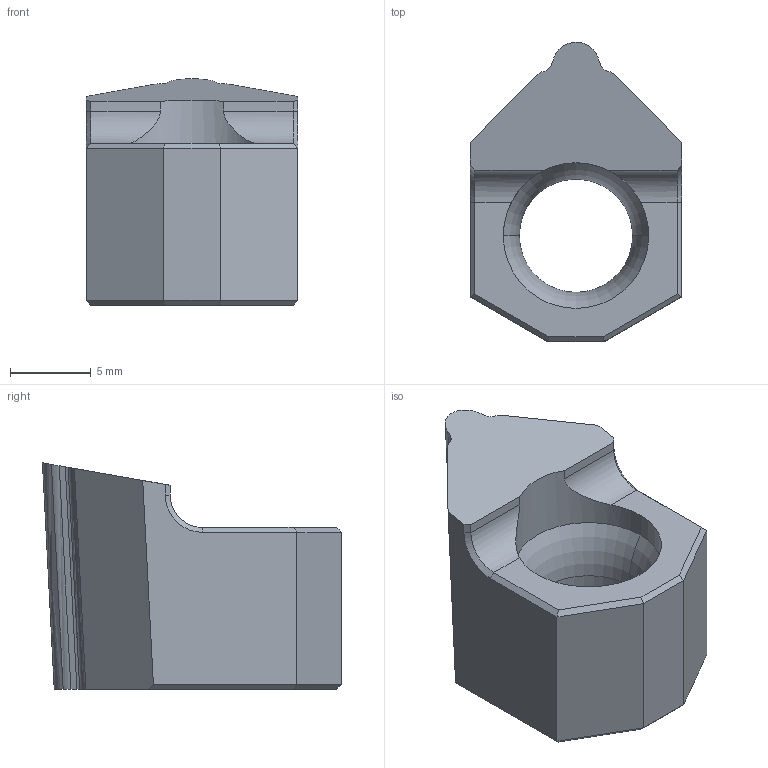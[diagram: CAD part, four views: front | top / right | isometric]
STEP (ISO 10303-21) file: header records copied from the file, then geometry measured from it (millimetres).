
FILE_DESCRIPTION (( 'STEP AP214' ), '1' );
FILE_NAME ('IN-PG5-16_32.STEP', '2023-07-22T09:50:45', ( 'Paolo' ), ( '' ), 'SwSTEP 2.0', 'SolidWorks 2020', '' );
FILE_SCHEMA (( 'AUTOMOTIVE_DESIGN' ));
Length unit declared in the file: millimetre
Products named in the file (1): IN-PG5-16_32
Bounding box: 13.1 x 18.5 x 14 mm (x, y, z)
Volume: 1599.9 mm3; surface area: 1112.9 mm2
Topology: 1 solids, 1 shells, 50 faces, 129 edges, 80 vertices
Faces by surface type: plane 24, bspline 14, cylinder 6, cone 4, torus 2
Entity records: 1650 total; most frequent: CARTESIAN_POINT 505, ORIENTED_EDGE 258, DIRECTION 189, EDGE_CURVE 129, LINE 81, VECTOR 81, VERTEX_POINT 80, AXIS2_PLACEMENT_3D 54
